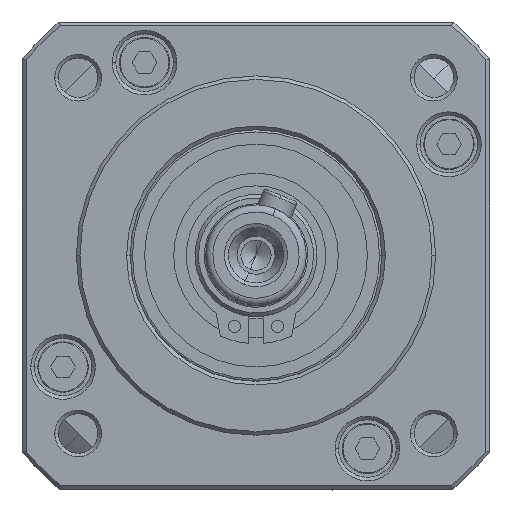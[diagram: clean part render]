
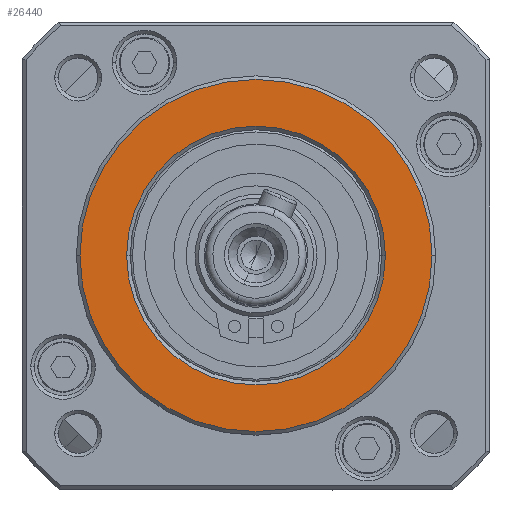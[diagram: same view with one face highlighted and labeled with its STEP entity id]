
A CAD part, top view. The second image highlights one B-rep face of the part: STEP entity #26440.
In plain terms, the highlighted planar face has unit normal (0, 0, 1).
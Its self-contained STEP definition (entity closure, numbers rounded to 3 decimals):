
#526 = CIRCLE ( 'NONE', #28831, 24.5 ) ;
#752 = DIRECTION ( 'NONE',  ( -1., 0., 0. ) ) ;
#2819 = EDGE_CURVE ( 'NONE', #27859, #10422, #526, .T. ) ;
#4718 = DIRECTION ( 'NONE',  ( -1., 0., 0. ) ) ;
#6176 = DIRECTION ( 'NONE',  ( 0., 0., -1. ) ) ;
#7878 = CARTESIAN_POINT ( 'NONE',  ( -2.147, 10.389, 76.75 ) ) ;
#8046 = CARTESIAN_POINT ( 'NONE',  ( -44.647, 10.389, 76.75 ) ) ;
#10422 = VERTEX_POINT ( 'NONE', #8046 ) ;
#11147 = AXIS2_PLACEMENT_3D ( 'NONE', #27141, #27623, #752 ) ;
#11750 = CIRCLE ( 'NONE', #49545, 18. ) ;
#15136 = EDGE_CURVE ( 'NONE', #48660, #45676, #37685, .T. ) ;
#16260 = CARTESIAN_POINT ( 'NONE',  ( 4.353, 10.389, 76.75 ) ) ;
#19119 = PLANE ( 'NONE',  #23354 ) ;
#19298 = DIRECTION ( 'NONE',  ( 0., 0., -1. ) ) ;
#19609 = AXIS2_PLACEMENT_3D ( 'NONE', #44208, #6176, #21574 ) ;
#21574 = DIRECTION ( 'NONE',  ( -1., 0., 0. ) ) ;
#22414 = CARTESIAN_POINT ( 'NONE',  ( -20.147, 10.389, 76.75 ) ) ;
#23175 = CARTESIAN_POINT ( 'NONE',  ( -20.147, 10.389, 76.75 ) ) ;
#23354 = AXIS2_PLACEMENT_3D ( 'NONE', #23175, #19298, #46324 ) ;
#25289 = FACE_BOUND ( 'NONE', #29606, .T. ) ;
#25958 = DIRECTION ( 'NONE',  ( 0., 0., 1. ) ) ;
#26440 = ADVANCED_FACE ( 'NONE', ( #25289, #44631 ), #19119, .F. ) ;
#26892 = CIRCLE ( 'NONE', #11147, 24.5 ) ;
#27141 = CARTESIAN_POINT ( 'NONE',  ( -20.147, 10.389, 76.75 ) ) ;
#27458 = ORIENTED_EDGE ( 'NONE', *, *, #2819, .T. ) ;
#27623 = DIRECTION ( 'NONE',  ( 0., 0., 1. ) ) ;
#27859 = VERTEX_POINT ( 'NONE', #16260 ) ;
#28831 = AXIS2_PLACEMENT_3D ( 'NONE', #22414, #25958, #49104 ) ;
#29606 = EDGE_LOOP ( 'NONE', ( #45184, #29614 ) ) ;
#29614 = ORIENTED_EDGE ( 'NONE', *, *, #15136, .T. ) ;
#31920 = DIRECTION ( 'NONE',  ( 0., 0., -1. ) ) ;
#33885 = EDGE_CURVE ( 'NONE', #45676, #48660, #11750, .T. ) ;
#33935 = ORIENTED_EDGE ( 'NONE', *, *, #45590, .T. ) ;
#37170 = EDGE_LOOP ( 'NONE', ( #33935, #27458 ) ) ;
#37685 = CIRCLE ( 'NONE', #19609, 18. ) ;
#40557 = CARTESIAN_POINT ( 'NONE',  ( -38.147, 10.389, 76.75 ) ) ;
#43408 = CARTESIAN_POINT ( 'NONE',  ( -20.147, 10.389, 76.75 ) ) ;
#44208 = CARTESIAN_POINT ( 'NONE',  ( -20.147, 10.389, 76.75 ) ) ;
#44631 = FACE_OUTER_BOUND ( 'NONE', #37170, .T. ) ;
#45184 = ORIENTED_EDGE ( 'NONE', *, *, #33885, .T. ) ;
#45590 = EDGE_CURVE ( 'NONE', #10422, #27859, #26892, .T. ) ;
#45676 = VERTEX_POINT ( 'NONE', #7878 ) ;
#46324 = DIRECTION ( 'NONE',  ( -1., 0., 0. ) ) ;
#48660 = VERTEX_POINT ( 'NONE', #40557 ) ;
#49104 = DIRECTION ( 'NONE',  ( -1., 0., 0. ) ) ;
#49545 = AXIS2_PLACEMENT_3D ( 'NONE', #43408, #31920, #4718 ) ;
